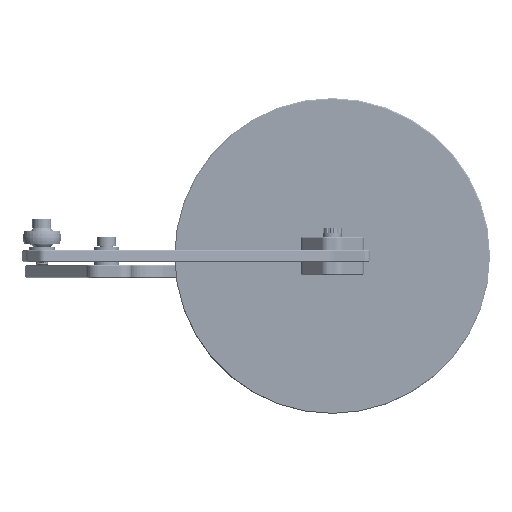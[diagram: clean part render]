
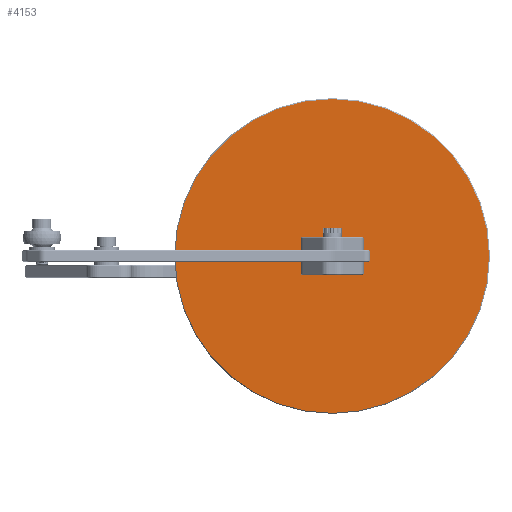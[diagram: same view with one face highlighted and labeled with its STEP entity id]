
A CAD part, left-side view. The second image highlights one B-rep face of the part: STEP entity #4153.
In plain terms, the highlighted planar face has unit normal (-1, 0, 0) as drawn and (0, 0, -1) by its records, which use the part's own axes.
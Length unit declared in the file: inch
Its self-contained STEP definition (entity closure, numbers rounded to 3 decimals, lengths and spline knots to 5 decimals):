
#1459 = ORIENTED_EDGE ( 'NONE', *, *, #9317, .T. ) ;
#1667 = CIRCLE ( 'NONE', #75517, 0.1285 ) ;
#3782 = CIRCLE ( 'NONE', #31988, 0.1285 ) ;
#4056 = AXIS2_PLACEMENT_3D ( 'NONE', #56430, #82474, #50550 ) ;
#4153 = ADVANCED_FACE ( 'NONE', ( #15214, #72356, #53871 ), #47160, .F. ) ;
#4291 = AXIS2_PLACEMENT_3D ( 'NONE', #65599, #26941, #65182 ) ;
#5737 = DIRECTION ( 'NONE',  ( 1., 0., 0. ) ) ;
#6929 = AXIS2_PLACEMENT_3D ( 'NONE', #49009, #28019, #54490 ) ;
#7944 = CARTESIAN_POINT ( 'NONE',  ( 0.1285, 0.375, -0.125 ) ) ;
#8315 = EDGE_CURVE ( 'NONE', #44143, #43701, #3782, .T. ) ;
#9317 = EDGE_CURVE ( 'NONE', #37492, #76301, #11019, .T. ) ;
#9436 = CARTESIAN_POINT ( 'NONE',  ( 0., 0.375, -0.125 ) ) ;
#11019 = CIRCLE ( 'NONE', #4291, 0.1285 ) ;
#11896 = ORIENTED_EDGE ( 'NONE', *, *, #46852, .T. ) ;
#15214 = FACE_OUTER_BOUND ( 'NONE', #38350, .T. ) ;
#20389 = CIRCLE ( 'NONE', #6929, 0.1285 ) ;
#21172 = EDGE_CURVE ( 'NONE', #76301, #37492, #1667, .T. ) ;
#24100 = ORIENTED_EDGE ( 'NONE', *, *, #21172, .T. ) ;
#26941 = DIRECTION ( 'NONE',  ( 0., 0., 1. ) ) ;
#28019 = DIRECTION ( 'NONE',  ( 0., 0., 1. ) ) ;
#29371 = VERTEX_POINT ( 'NONE', #72861 ) ;
#30408 = EDGE_CURVE ( 'NONE', #43701, #44143, #20389, .T. ) ;
#31229 = ORIENTED_EDGE ( 'NONE', *, *, #30408, .T. ) ;
#31988 = AXIS2_PLACEMENT_3D ( 'NONE', #82335, #73956, #68064 ) ;
#34700 = EDGE_CURVE ( 'NONE', #81867, #29371, #75220, .T. ) ;
#35731 = ORIENTED_EDGE ( 'NONE', *, *, #8315, .T. ) ;
#37492 = VERTEX_POINT ( 'NONE', #7944 ) ;
#38350 = EDGE_LOOP ( 'NONE', ( #11896, #68417 ) ) ;
#40803 = EDGE_LOOP ( 'NONE', ( #1459, #24100 ) ) ;
#41252 = CARTESIAN_POINT ( 'NONE',  ( 0., 0., -0.125 ) ) ;
#42228 = DIRECTION ( 'NONE',  ( 1., 0., 0. ) ) ;
#43701 = VERTEX_POINT ( 'NONE', #82376 ) ;
#44143 = VERTEX_POINT ( 'NONE', #79795 ) ;
#46852 = EDGE_CURVE ( 'NONE', #29371, #81867, #73849, .T. ) ;
#46878 = CARTESIAN_POINT ( 'NONE',  ( -3.105, 0., -0.125 ) ) ;
#47160 = PLANE ( 'NONE',  #75627 ) ;
#49009 = CARTESIAN_POINT ( 'NONE',  ( 0., -0.375, -0.125 ) ) ;
#50124 = EDGE_LOOP ( 'NONE', ( #31229, #35731 ) ) ;
#50550 = DIRECTION ( 'NONE',  ( 1., 0., 0. ) ) ;
#52014 = CARTESIAN_POINT ( 'NONE',  ( -0.1285, 0.375, -0.125 ) ) ;
#53871 = FACE_BOUND ( 'NONE', #50124, .T. ) ;
#54290 = DIRECTION ( 'NONE',  ( 0., 0., 1. ) ) ;
#54490 = DIRECTION ( 'NONE',  ( 1., 0., 0. ) ) ;
#56430 = CARTESIAN_POINT ( 'NONE',  ( 0., 0., -0.125 ) ) ;
#61966 = DIRECTION ( 'NONE',  ( 0., 0., 1. ) ) ;
#62084 = CARTESIAN_POINT ( 'NONE',  ( 0., 0., -0.125 ) ) ;
#65182 = DIRECTION ( 'NONE',  ( 1., 0., 0. ) ) ;
#65599 = CARTESIAN_POINT ( 'NONE',  ( 0., 0.375, -0.125 ) ) ;
#68064 = DIRECTION ( 'NONE',  ( 1., 0., 0. ) ) ;
#68417 = ORIENTED_EDGE ( 'NONE', *, *, #34700, .T. ) ;
#71134 = AXIS2_PLACEMENT_3D ( 'NONE', #62084, #75107, #5737 ) ;
#72356 = FACE_BOUND ( 'NONE', #40803, .T. ) ;
#72861 = CARTESIAN_POINT ( 'NONE',  ( 3.105, 0., -0.125 ) ) ;
#73849 = CIRCLE ( 'NONE', #71134, 3.105 ) ;
#73956 = DIRECTION ( 'NONE',  ( 0., 0., 1. ) ) ;
#75107 = DIRECTION ( 'NONE',  ( 0., 0., -1. ) ) ;
#75220 = CIRCLE ( 'NONE', #4056, 3.105 ) ;
#75517 = AXIS2_PLACEMENT_3D ( 'NONE', #9436, #61966, #42228 ) ;
#75627 = AXIS2_PLACEMENT_3D ( 'NONE', #41252, #54290, #79919 ) ;
#76301 = VERTEX_POINT ( 'NONE', #52014 ) ;
#79795 = CARTESIAN_POINT ( 'NONE',  ( -0.1285, -0.375, -0.125 ) ) ;
#79919 = DIRECTION ( 'NONE',  ( 1., 0., 0. ) ) ;
#81867 = VERTEX_POINT ( 'NONE', #46878 ) ;
#82335 = CARTESIAN_POINT ( 'NONE',  ( 0., -0.375, -0.125 ) ) ;
#82376 = CARTESIAN_POINT ( 'NONE',  ( 0.1285, -0.375, -0.125 ) ) ;
#82474 = DIRECTION ( 'NONE',  ( 0., 0., -1. ) ) ;
